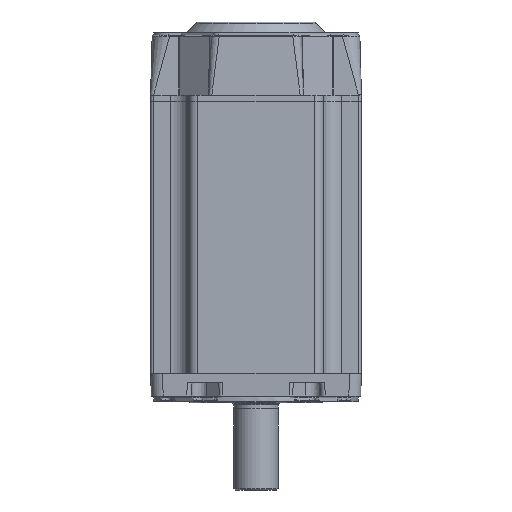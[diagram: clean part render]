
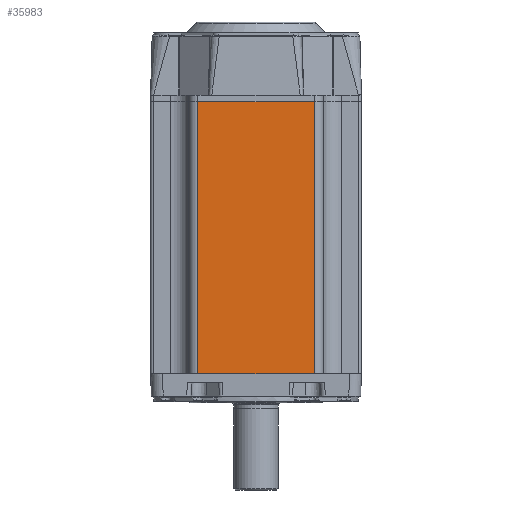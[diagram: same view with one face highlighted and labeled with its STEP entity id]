
A CAD part, front view. The second image highlights one B-rep face of the part: STEP entity #35983.
In plain terms, the highlighted planar face has unit normal (0, -1, 0).
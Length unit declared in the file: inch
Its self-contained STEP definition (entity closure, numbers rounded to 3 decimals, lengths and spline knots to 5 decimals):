
#33780=CARTESIAN_POINT('',(1.2275,-2.225,-5.75));
#33781=VERTEX_POINT('',#33780);
#33788=CARTESIAN_POINT('',(-1.2275,-2.225,-5.75));
#33789=VERTEX_POINT('',#33788);
#33790=CARTESIAN_POINT('',(-1.2275,-2.225,-5.75));
#33791=DIRECTION('',(1.0,0.0,0.0));
#33792=VECTOR('',#33791,2.455);
#33793=LINE('',#33790,#33792);
#33794=EDGE_CURVE('',#33789,#33781,#33793,.T.);
#35900=CARTESIAN_POINT('',(1.2275,-2.225,0.));
#35901=VERTEX_POINT('',#35900);
#35909=CARTESIAN_POINT('',(1.2275,-2.225,0.));
#35910=DIRECTION('',(0.0,0.0,-1.0));
#35911=VECTOR('',#35910,5.75);
#35912=LINE('',#35909,#35911);
#35913=EDGE_CURVE('',#35901,#33781,#35912,.T.);
#35960=CARTESIAN_POINT('',(1.415,-2.225,0.0));
#35961=DIRECTION('',(0.0,-1.0,0.0));
#35962=DIRECTION('',(0.0,0.0,-1.0));
#35963=AXIS2_PLACEMENT_3D('',#35960,#35961,#35962);
#35964=PLANE('',#35963);
#35965=CARTESIAN_POINT('',(-1.2275,-2.225,0.));
#35966=VERTEX_POINT('',#35965);
#35967=CARTESIAN_POINT('',(1.2275,-2.225,0.));
#35968=DIRECTION('',(-1.0,0.0,0.0));
#35969=VECTOR('',#35968,2.455);
#35970=LINE('',#35967,#35969);
#35971=EDGE_CURVE('',#35901,#35966,#35970,.T.);
#35972=ORIENTED_EDGE('',*,*,#35971,.T.);
#35973=CARTESIAN_POINT('',(-1.2275,-2.225,-5.75));
#35974=DIRECTION('',(0.0,0.0,1.0));
#35975=VECTOR('',#35974,5.75);
#35976=LINE('',#35973,#35975);
#35977=EDGE_CURVE('',#33789,#35966,#35976,.T.);
#35978=ORIENTED_EDGE('',*,*,#35977,.F.);
#35979=ORIENTED_EDGE('',*,*,#33794,.T.);
#35980=ORIENTED_EDGE('',*,*,#35913,.F.);
#35981=EDGE_LOOP('',(#35972,#35978,#35979,#35980));
#35982=FACE_OUTER_BOUND('',#35981,.T.);
#35983=ADVANCED_FACE('',(#35982),#35964,.T.);
